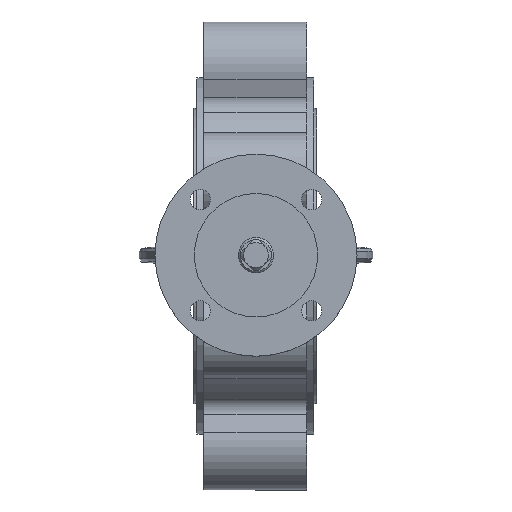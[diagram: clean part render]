
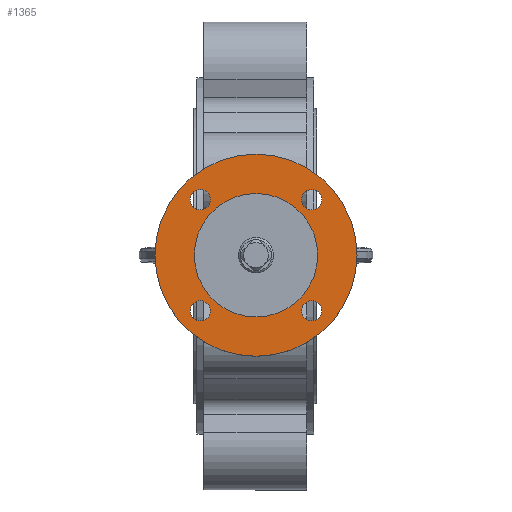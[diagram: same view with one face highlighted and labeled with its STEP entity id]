
A CAD part, top view. The second image highlights one B-rep face of the part: STEP entity #1365.
In plain terms, the highlighted planar face has unit normal (0, 0, 1).
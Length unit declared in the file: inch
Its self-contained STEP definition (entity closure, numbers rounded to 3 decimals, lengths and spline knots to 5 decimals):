
#1159=CARTESIAN_POINT('',(1.8825,0.0,12.16198));
#1160=VERTEX_POINT('',#1159);
#1161=CARTESIAN_POINT('',(0.8,0.0,12.16198));
#1162=DIRECTION('',(0.0,0.0,-1.0));
#1163=DIRECTION('',(1.0,0.0,0.0));
#1164=AXIS2_PLACEMENT_3D('',#1161,#1162,#1163);
#1165=CIRCLE('',#1164,1.0825);
#1166=EDGE_CURVE('',#1160,#1160,#1165,.T.);
#1206=CARTESIAN_POINT('',(0.00261,-0.97439,12.16198));
#1207=VERTEX_POINT('',#1206);
#1208=CARTESIAN_POINT('',(-0.17439,-0.97439,12.16198));
#1209=DIRECTION('',(0.0,0.0,-1.0));
#1210=DIRECTION('',(-1.0,0.0,0.0));
#1211=AXIS2_PLACEMENT_3D('',#1208,#1209,#1210);
#1212=CIRCLE('',#1211,0.177);
#1213=EDGE_CURVE('',#1207,#1207,#1212,.T.);
#1234=CARTESIAN_POINT('',(1.59739,-0.97439,12.16198));
#1235=VERTEX_POINT('',#1234);
#1236=CARTESIAN_POINT('',(1.77439,-0.97439,12.16198));
#1237=DIRECTION('',(0.0,0.0,-1.0));
#1238=DIRECTION('',(1.0,0.0,0.0));
#1239=AXIS2_PLACEMENT_3D('',#1236,#1237,#1238);
#1240=CIRCLE('',#1239,0.177);
#1241=EDGE_CURVE('',#1235,#1235,#1240,.T.);
#1283=CARTESIAN_POINT('',(1.59739,0.97439,12.16198));
#1284=VERTEX_POINT('',#1283);
#1285=CARTESIAN_POINT('',(1.77439,0.97439,12.16198));
#1286=DIRECTION('',(0.0,0.0,-1.0));
#1287=DIRECTION('',(1.0,0.0,0.0));
#1288=AXIS2_PLACEMENT_3D('',#1285,#1286,#1287);
#1289=CIRCLE('',#1288,0.177);
#1290=EDGE_CURVE('',#1284,#1284,#1289,.T.);
#1311=CARTESIAN_POINT('',(0.00261,0.97439,12.16198));
#1312=VERTEX_POINT('',#1311);
#1313=CARTESIAN_POINT('',(-0.17439,0.97439,12.16198));
#1314=DIRECTION('',(0.0,0.0,-1.0));
#1315=DIRECTION('',(-1.0,0.0,0.0));
#1316=AXIS2_PLACEMENT_3D('',#1313,#1314,#1315);
#1317=CIRCLE('',#1316,0.177);
#1318=EDGE_CURVE('',#1312,#1312,#1317,.T.);
#1334=CARTESIAN_POINT('',(0.8,0.0,12.16198));
#1335=DIRECTION('',(0.0,0.0,1.0));
#1336=DIRECTION('',(1.0,0.0,0.0));
#1337=AXIS2_PLACEMENT_3D('',#1334,#1335,#1336);
#1338=PLANE('',#1337);
#1339=CARTESIAN_POINT('',(2.57149,0.0,12.16198));
#1340=VERTEX_POINT('',#1339);
#1341=CARTESIAN_POINT('',(0.8,0.0,12.16198));
#1342=DIRECTION('',(0.0,0.0,-1.0));
#1343=DIRECTION('',(1.0,0.0,0.0));
#1344=AXIS2_PLACEMENT_3D('',#1341,#1342,#1343);
#1345=CIRCLE('',#1344,1.7715);
#1346=EDGE_CURVE('',#1340,#1340,#1345,.T.);
#1347=ORIENTED_EDGE('',*,*,#1346,.F.);
#1348=EDGE_LOOP('',(#1347));
#1349=FACE_OUTER_BOUND('',#1348,.T.);
#1350=ORIENTED_EDGE('',*,*,#1166,.T.);
#1351=EDGE_LOOP('',(#1350));
#1352=FACE_BOUND('',#1351,.T.);
#1353=ORIENTED_EDGE('',*,*,#1318,.T.);
#1354=EDGE_LOOP('',(#1353));
#1355=FACE_BOUND('',#1354,.T.);
#1356=ORIENTED_EDGE('',*,*,#1290,.T.);
#1357=EDGE_LOOP('',(#1356));
#1358=FACE_BOUND('',#1357,.T.);
#1359=ORIENTED_EDGE('',*,*,#1241,.T.);
#1360=EDGE_LOOP('',(#1359));
#1361=FACE_BOUND('',#1360,.T.);
#1362=ORIENTED_EDGE('',*,*,#1213,.T.);
#1363=EDGE_LOOP('',(#1362));
#1364=FACE_BOUND('',#1363,.T.);
#1365=ADVANCED_FACE('',(#1349,#1352,#1355,#1358,#1361,#1364),#1338,.T.);
